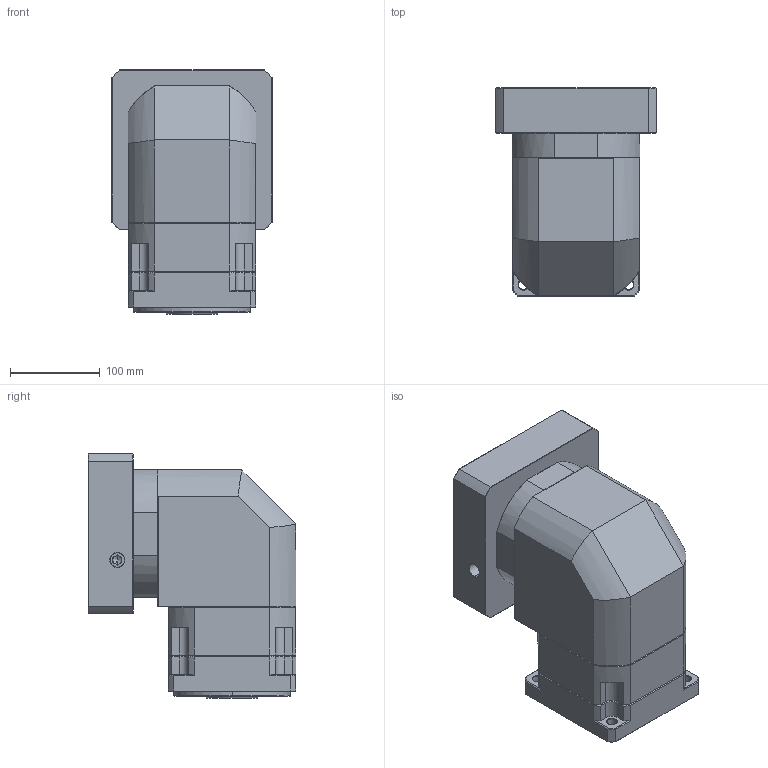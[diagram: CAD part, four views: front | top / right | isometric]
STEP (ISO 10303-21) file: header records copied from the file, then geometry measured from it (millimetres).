
FILE_DESCRIPTION (( 'STEP AP214' ), '1' );
FILE_NAME ('ZBR142A-K35-L1-P2-35-150-200-M12.step', '2023-09-02T07:15:49', ( '' ), ( '' ), 'SwSTEP 2.0', 'SolidWorks 2016', '' );
FILE_SCHEMA (( 'AUTOMOTIVE_DESIGN' ));
Length unit declared in the file: millimetre
Products named in the file (1): ZBR142A-K35-L1-P2-35-150-200-M12
Bounding box: 178 x 231 x 271.7 mm (x, y, z)
Volume: 5751593.1 mm3; surface area: 421318.6 mm2
Topology: 6 solids, 6 shells, 2239 faces, 5911 edges, 3778 vertices
Faces by surface type: plane 1113, bspline 403, cylinder 377, cone 326, torus 20
Entity records: 122162 total; most frequent: CARTESIAN_POINT 45249, ORIENTED_EDGE 11766, DIRECTION 9327, EDGE_CURVE 5883, LINE 3839, VECTOR 3839, VERTEX_POINT 3778, AXIS2_PLACEMENT_3D 2744
